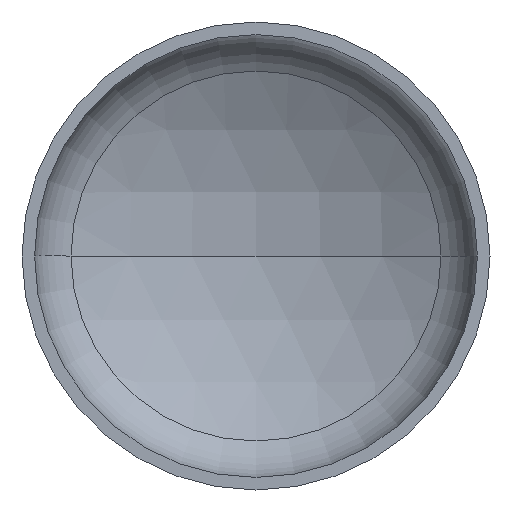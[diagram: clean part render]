
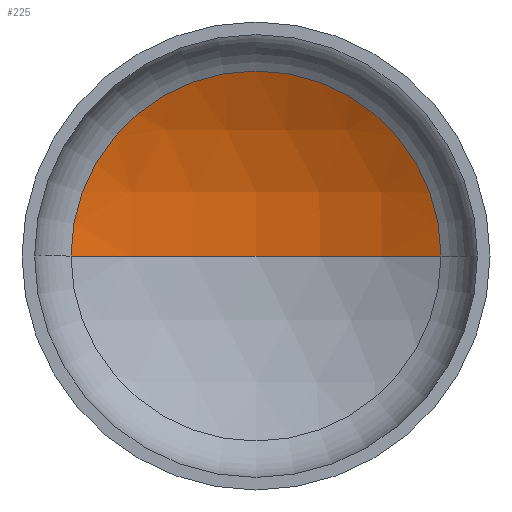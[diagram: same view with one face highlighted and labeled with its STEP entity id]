
A CAD part, front view. The second image highlights one B-rep face of the part: STEP entity #225.
In plain terms, the highlighted spherical face has radius 3040 mm.
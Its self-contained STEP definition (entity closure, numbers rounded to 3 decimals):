
#10 = ORIENTED_EDGE ( 'NONE', *, *, #264, .F. ) ;
#13 = DIRECTION ( 'NONE',  ( -1., 0., 0. ) ) ;
#15 = ORIENTED_EDGE ( 'NONE', *, *, #249, .T. ) ;
#22 = VERTEX_POINT ( 'NONE', #373 ) ;
#33 = SPHERICAL_SURFACE ( 'NONE', #47, 3040. ) ;
#36 = EDGE_LOOP ( 'NONE', ( #10, #15, #144 ) ) ;
#42 = AXIS2_PLACEMENT_3D ( 'NONE', #397, #396, #193 ) ;
#45 = AXIS2_PLACEMENT_3D ( 'NONE', #197, #194, #13 ) ;
#47 = AXIS2_PLACEMENT_3D ( 'NONE', #88, #233, #227 ) ;
#52 = AXIS2_PLACEMENT_3D ( 'NONE', #272, #252, #250 ) ;
#74 = VERTEX_POINT ( 'NONE', #260 ) ;
#88 = CARTESIAN_POINT ( 'NONE',  ( 0., -2059.398, 0. ) ) ;
#144 = ORIENTED_EDGE ( 'NONE', *, *, #243, .T. ) ;
#189 = CIRCLE ( 'NONE', #42, 3040. ) ;
#193 = DIRECTION ( 'NONE',  ( 1., 0., 0. ) ) ;
#194 = DIRECTION ( 'NONE',  ( 0., 0., -1. ) ) ;
#195 = CIRCLE ( 'NONE', #45, 3040. ) ;
#197 = CARTESIAN_POINT ( 'NONE',  ( 0., -2059.398, 0. ) ) ;
#225 = ADVANCED_FACE ( 'NONE', ( #375 ), #33, .F. ) ;
#227 = DIRECTION ( 'NONE',  ( -1., 0., 0. ) ) ;
#233 = DIRECTION ( 'NONE',  ( 0., 0., -1. ) ) ;
#243 = EDGE_CURVE ( 'NONE', #401, #74, #370, .T. ) ;
#249 = EDGE_CURVE ( 'NONE', #22, #401, #195, .T. ) ;
#250 = DIRECTION ( 'NONE',  ( 1., 0., 0. ) ) ;
#252 = DIRECTION ( 'NONE',  ( 0., -1., 0. ) ) ;
#260 = CARTESIAN_POINT ( 'NONE',  ( -1502.045, 583.604, 0. ) ) ;
#264 = EDGE_CURVE ( 'NONE', #22, #74, #189, .T. ) ;
#272 = CARTESIAN_POINT ( 'NONE',  ( 0., 583.604, 0. ) ) ;
#370 = CIRCLE ( 'NONE', #52, 1502.045 ) ;
#373 = CARTESIAN_POINT ( 'NONE',  ( 0., 980.602, 0. ) ) ;
#375 = FACE_OUTER_BOUND ( 'NONE', #36, .T. ) ;
#396 = DIRECTION ( 'NONE',  ( 0., 0., 1. ) ) ;
#397 = CARTESIAN_POINT ( 'NONE',  ( 0., -2059.398, 0. ) ) ;
#401 = VERTEX_POINT ( 'NONE', #403 ) ;
#403 = CARTESIAN_POINT ( 'NONE',  ( 1502.045, 583.604, 0. ) ) ;
